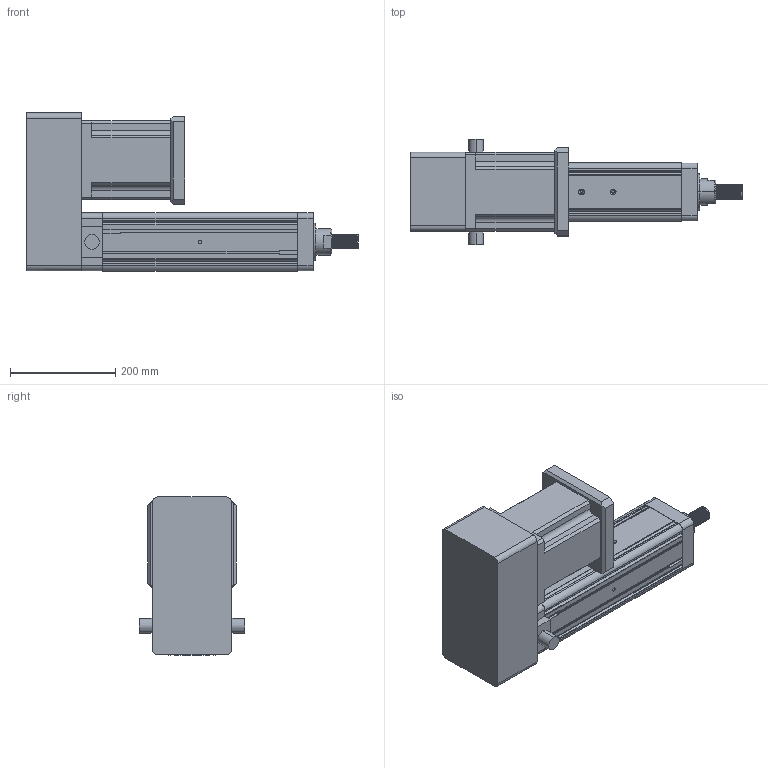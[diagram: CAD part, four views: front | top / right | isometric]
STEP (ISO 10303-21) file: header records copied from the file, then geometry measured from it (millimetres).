
FILE_DESCRIPTION (( 'STEP AP203' ), '1' );
FILE_NAME ('YRJ110-L200-H4K1.STEP', '2020-01-06T01:11:57', ( 'User' ), ( 'China' ), 'SwSTEP 2.0', 'SolidWorks 2016', '' );
FILE_SCHEMA (( 'CONFIG_CONTROL_DESIGN' ));
Length unit declared in the file: millimetre
Products named in the file (7): H5-110-2; 095-100俴最倰第; 萇儂碟-110; 142熬厒儂; K1-110; YRJ110-L200-H4K1; H5-110-1
Assembly tree (6 placements, depth 2):
  YRJ110-L200-H4K1
    095-100俴最倰第
    142熬厒儂
    H5-110-1
    H5-110-2
    K1-110
    萇儂碟-110
Bounding box: 631 x 200 x 300.5 mm (x, y, z)
Volume: 11384302 mm3; surface area: 820171.6 mm2
Topology: 6 solids, 6 shells, 364 faces, 1001 edges, 648 vertices
Faces by surface type: plane 177, cylinder 156, cone 27, bspline 4
Entity records: 20204 total; most frequent: CARTESIAN_POINT 10355, ORIENTED_EDGE 1970, DIRECTION 1829, EDGE_CURVE 985, VERTEX_POINT 648, LINE 625, VECTOR 625, AXIS2_PLACEMENT_3D 602
